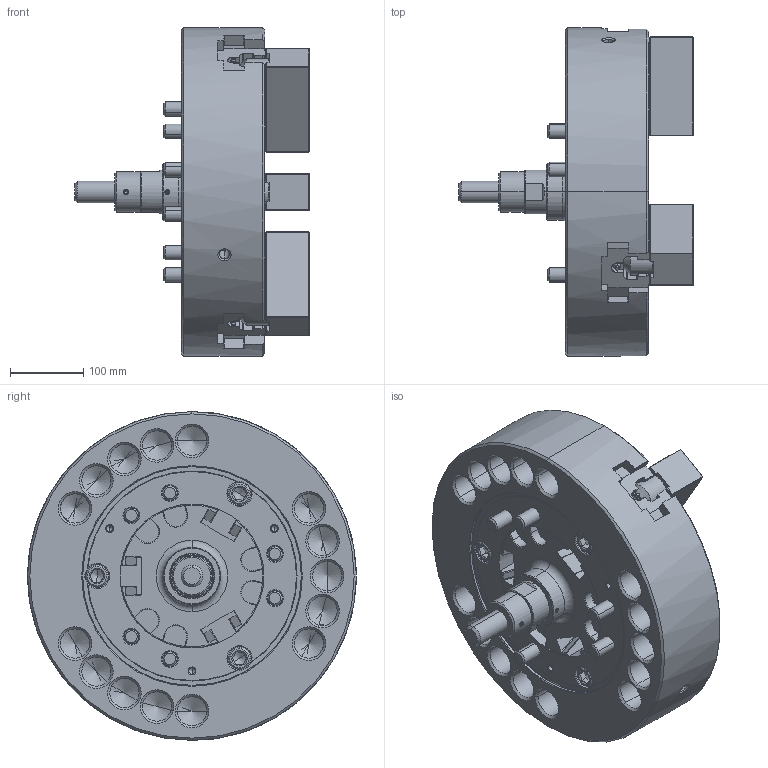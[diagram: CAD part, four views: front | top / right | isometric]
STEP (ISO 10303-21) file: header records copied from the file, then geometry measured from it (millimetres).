
FILE_DESCRIPTION (( 'STEP AP214' ), '1' );
FILE_NAME ('DT1_NL18_OUTSIDE_VIEW_OC.STEP', '2026-03-22T23:30:16', ( '' ), ( '' ), 'SwSTEP 2.0', 'SolidWorks 2022', '' );
FILE_SCHEMA (( 'AUTOMOTIVE_DESIGN' ));
Length unit declared in the file: millimetre
Products named in the file (11): DT1_NL18_DN^DT1_NL18; DT1_NL18_M6x12^DT1_NL18; DT1_NL18_COVER^DT1_NL18; Copy of 61P321208^DT1_NL18; DT1_NL18_M20x55^DT1_NL18; DT1_NL18_BASE^DT1_NL18; DT1_NL18_SOFTJAW^DT1_NL18; DT1_NL18_OUTSIDE_VIEW_OC; DT1_NL18_TNUT^DT1_NL18; DT1_NL18_M20x115^DT1_NL18; DT1_NL18_DRAWSCREW^DT1_NL18
Assembly tree (29 placements, depth 2):
  DT1_NL18_OUTSIDE_VIEW_OC
    DT1_NL18_SOFTJAW^DT1_NL18  x3
    DT1_NL18_TNUT^DT1_NL18  x6
    DT1_NL18_COVER^DT1_NL18
    DT1_NL18_DRAWSCREW^DT1_NL18
    Copy of 61P321208^DT1_NL18
    DT1_NL18_M6x12^DT1_NL18  x3
    DT1_NL18_M20x115^DT1_NL18  x6
    DT1_NL18_M20x55^DT1_NL18  x6
    DT1_NL18_DN^DT1_NL18
    DT1_NL18_BASE^DT1_NL18
Bounding box: 321 x 450 x 450 mm (x, y, z)
Volume: 17166770.6 mm3; surface area: 1254559.8 mm2
Topology: 29 solids, 35 shells, 7237 faces, 20470 edges, 13421 vertices
Faces by surface type: plane 5100, cylinder 930, bspline 611, cone 517, torus 79
Entity records: 208123 total; most frequent: CARTESIAN_POINT 67004, ORIENTED_EDGE 32164, DIRECTION 24648, EDGE_CURVE 16082, VECTOR 12042, LINE 12042, VERTEX_POINT 10587, AXIS2_PLACEMENT_3D 6303
